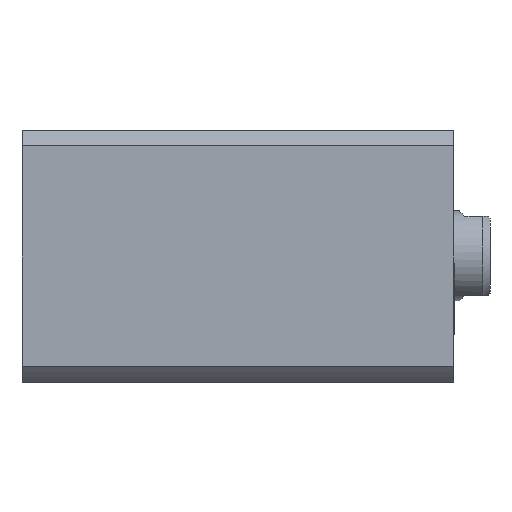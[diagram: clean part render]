
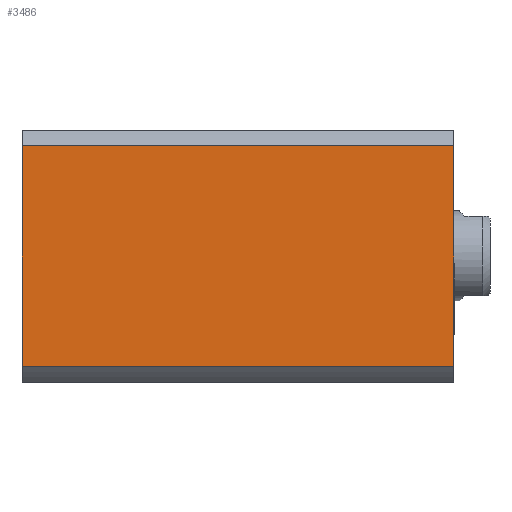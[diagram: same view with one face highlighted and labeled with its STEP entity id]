
A CAD part, left-side view. The second image highlights one B-rep face of the part: STEP entity #3486.
In plain terms, the highlighted planar face has unit normal (-1, 0, 0).
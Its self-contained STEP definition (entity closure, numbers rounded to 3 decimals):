
#434 = LINE ( 'NONE', #6481, #8568 ) ;
#590 = VECTOR ( 'NONE', #8006, 1000. ) ;
#902 = VERTEX_POINT ( 'NONE', #5259 ) ;
#979 = EDGE_CURVE ( 'NONE', #2368, #4354, #7853, .T. ) ;
#1075 = VECTOR ( 'NONE', #8417, 1000. ) ;
#1331 = FACE_OUTER_BOUND ( 'NONE', #4073, .T. ) ;
#1541 = DIRECTION ( 'NONE',  ( 0., -1., 0. ) ) ;
#1834 = EDGE_CURVE ( 'NONE', #902, #2368, #2546, .T. ) ;
#2368 = VERTEX_POINT ( 'NONE', #7108 ) ;
#2546 = LINE ( 'NONE', #8336, #8349 ) ;
#2674 = ORIENTED_EDGE ( 'NONE', *, *, #3736, .F. ) ;
#2683 = LINE ( 'NONE', #3277, #590 ) ;
#3277 = CARTESIAN_POINT ( 'NONE',  ( -35., 30.615, 300. ) ) ;
#3334 = DIRECTION ( 'NONE',  ( 0., -1., 0. ) ) ;
#3486 = ADVANCED_FACE ( 'NONE', ( #1331 ), #9260, .F. ) ;
#3736 = EDGE_CURVE ( 'NONE', #6980, #902, #2683, .T. ) ;
#3797 = DIRECTION ( 'NONE',  ( 0., 1., 0. ) ) ;
#4073 = EDGE_LOOP ( 'NONE', ( #7303, #4471, #2674, #6520 ) ) ;
#4354 = VERTEX_POINT ( 'NONE', #9180 ) ;
#4471 = ORIENTED_EDGE ( 'NONE', *, *, #1834, .F. ) ;
#5140 = AXIS2_PLACEMENT_3D ( 'NONE', #7733, #8533, #3797 ) ;
#5259 = CARTESIAN_POINT ( 'NONE',  ( -35., 30.615, 120. ) ) ;
#6481 = CARTESIAN_POINT ( 'NONE',  ( -35., 35., 0. ) ) ;
#6520 = ORIENTED_EDGE ( 'NONE', *, *, #6724, .T. ) ;
#6724 = EDGE_CURVE ( 'NONE', #6980, #4354, #434, .T. ) ;
#6980 = VERTEX_POINT ( 'NONE', #8877 ) ;
#7108 = CARTESIAN_POINT ( 'NONE',  ( -35., -30.615, 120. ) ) ;
#7303 = ORIENTED_EDGE ( 'NONE', *, *, #979, .F. ) ;
#7646 = CARTESIAN_POINT ( 'NONE',  ( -35., -30.615, 300. ) ) ;
#7733 = CARTESIAN_POINT ( 'NONE',  ( -35., 35., 120. ) ) ;
#7853 = LINE ( 'NONE', #7646, #1075 ) ;
#8006 = DIRECTION ( 'NONE',  ( 0., 0., 1. ) ) ;
#8336 = CARTESIAN_POINT ( 'NONE',  ( -35., 35., 120. ) ) ;
#8349 = VECTOR ( 'NONE', #1541, 1000. ) ;
#8417 = DIRECTION ( 'NONE',  ( 0., 0., -1. ) ) ;
#8533 = DIRECTION ( 'NONE',  ( 1., 0., 0. ) ) ;
#8568 = VECTOR ( 'NONE', #3334, 1000. ) ;
#8877 = CARTESIAN_POINT ( 'NONE',  ( -35., 30.615, 0. ) ) ;
#9180 = CARTESIAN_POINT ( 'NONE',  ( -35., -30.615, 0. ) ) ;
#9260 = PLANE ( 'NONE',  #5140 ) ;
